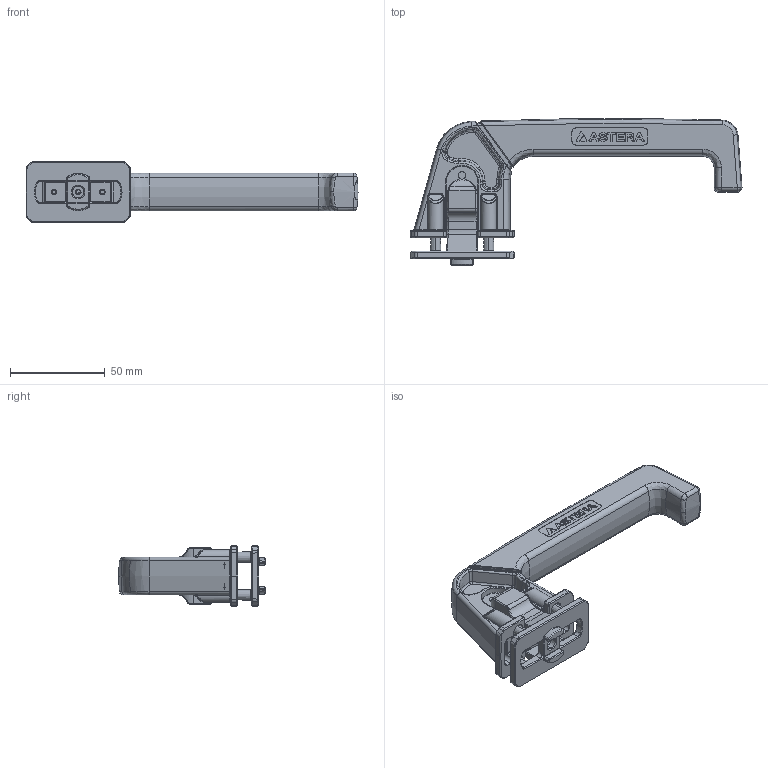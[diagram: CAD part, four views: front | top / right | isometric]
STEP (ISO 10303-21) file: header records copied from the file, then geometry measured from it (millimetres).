
FILE_DESCRIPTION(('FreeCAD Model'),'2;1');
FILE_NAME('Open CASCADE Shape Model','2023-10-11T09:46:04',( 'Lukas Balthasar Pank'),('Astera LED Technology GmbH'), 'Open CASCADE STEP processor 7.6','FreeCAD','Unknown');
FILE_SCHEMA(('AUTOMOTIVE_DESIGN { 1 0 10303 214 1 1 1 1 }'));
Length unit declared in the file: millimetre
Products named in the file (9): AF80_PlutoFresnel_Handle_3D-File; 20756-Handle; 20755-Handle removable connect holder
Assembly tree (8 placements, depth 3):
  AF80_PlutoFresnel_Handle_3D-File
    20756-Handle
      20756-Handle
      20756-Handle
      20756-Handle
      20756-Handle
      20756-Handle
      20756-Handle
    20755-Handle removable connect holder
Bounding box: 175.25 x 77.45 x 32 mm (x, y, z)
Volume: 115957.1 mm3; surface area: 46602.4 mm2
Topology: 7 solids, 7 shells, 1592 faces, 3903 edges, 2376 vertices
Faces by surface type: bspline 585, plane 467, cylinder 328, cone 177, torus 35
Entity records: 68941 total; most frequent: CARTESIAN_POINT 35809, ORIENTED_EDGE 7798, DIRECTION 5283, EDGE_CURVE 3899, VERTEX_POINT 2376, AXIS2_PLACEMENT_3D 1776, LINE 1731, VECTOR 1731
